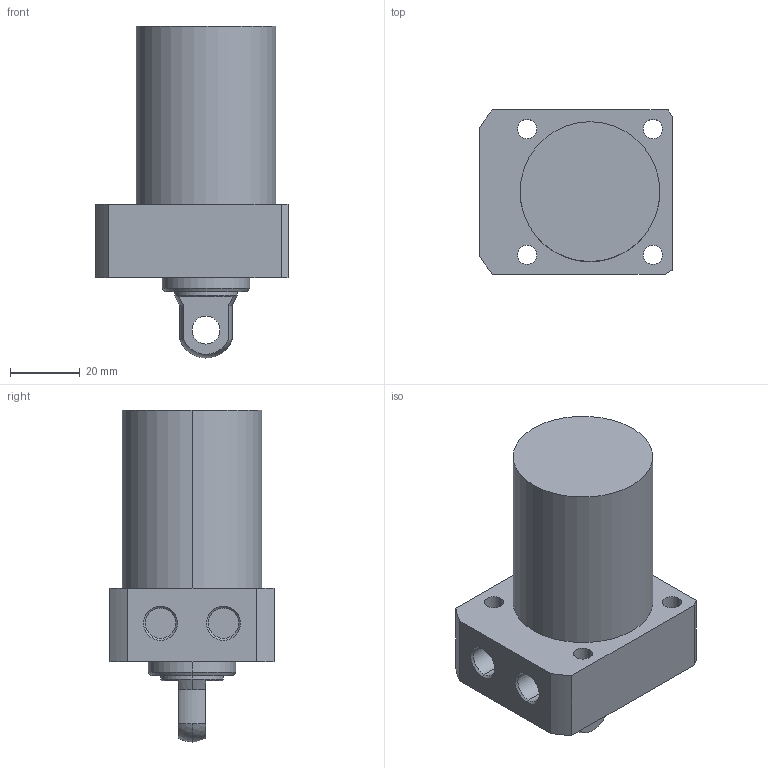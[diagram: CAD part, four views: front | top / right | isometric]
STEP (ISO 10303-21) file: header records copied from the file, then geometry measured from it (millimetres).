
FILE_DESCRIPTION (( 'STEP AP203' ), '1' );
FILE_NAME ('CLL-R040-CP-040.STEP', '2017-05-10T11:29:32', ( '' ), ( '' ), 'SwSTEP 2.0', 'SolidWorks 2015', '' );
FILE_SCHEMA (( 'CONFIG_CONTROL_DESIGN' ));
Length unit declared in the file: millimetre
Products named in the file (1): CLL-R040-CP-040
Bounding box: 55 x 47 x 95 mm (x, y, z)
Volume: 117778.4 mm3; surface area: 18906.1 mm2
Topology: 1 solids, 1 shells, 57 faces, 135 edges, 87 vertices
Faces by surface type: cylinder 29, plane 18, cone 8, sphere 2
Entity records: 1770 total; most frequent: DIRECTION 319, CARTESIAN_POINT 292, ORIENTED_EDGE 270, EDGE_CURVE 135, AXIS2_PLACEMENT_3D 130, VERTEX_POINT 87, EDGE_LOOP 74, CIRCLE 72
